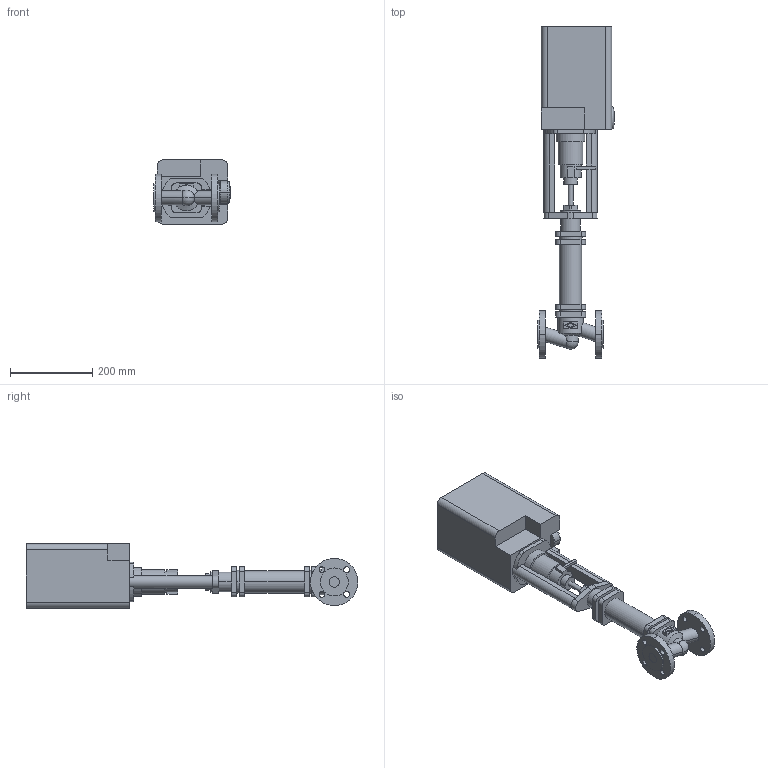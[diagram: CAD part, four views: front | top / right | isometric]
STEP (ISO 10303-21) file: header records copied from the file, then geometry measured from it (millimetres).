
FILE_DESCRIPTION(('CoCreate Modeling STEP Export'),'2;1');
FILE_NAME('c000004801.stp','2011-10-11T11:21:45',(''),(''),'CoCreate Modeling STEP processor for AP214 (Solid Model)','CoCreate Modeling 17.0 01-Apr-2010 (C) Parametric Technology GmbH','');
FILE_SCHEMA(('AUTOMOTIVE_DESIGN { 1 0 10303 214 1 1 1 1 }'));
Length unit declared in the file: millimetre
Products named in the file (2): 1; 2
Bounding box: 186.5 x 806.5 x 156 mm (x, y, z)
Volume: 8441147.5 mm3; surface area: 451593.8 mm2
Topology: 2 solids, 2 shells, 223 faces, 565 edges, 373 vertices
Faces by surface type: plane 108, cylinder 103, sphere 6, torus 4, cone 2
Entity records: 8265 total; most frequent: CARTESIAN_POINT 1251, ORIENTED_EDGE 1126, DIRECTION 1018, EDGE_CURVE 563, VERTEX_POINT 373, AXIS2_PLACEMENT_3D 353, VECTOR 312, LINE 312
